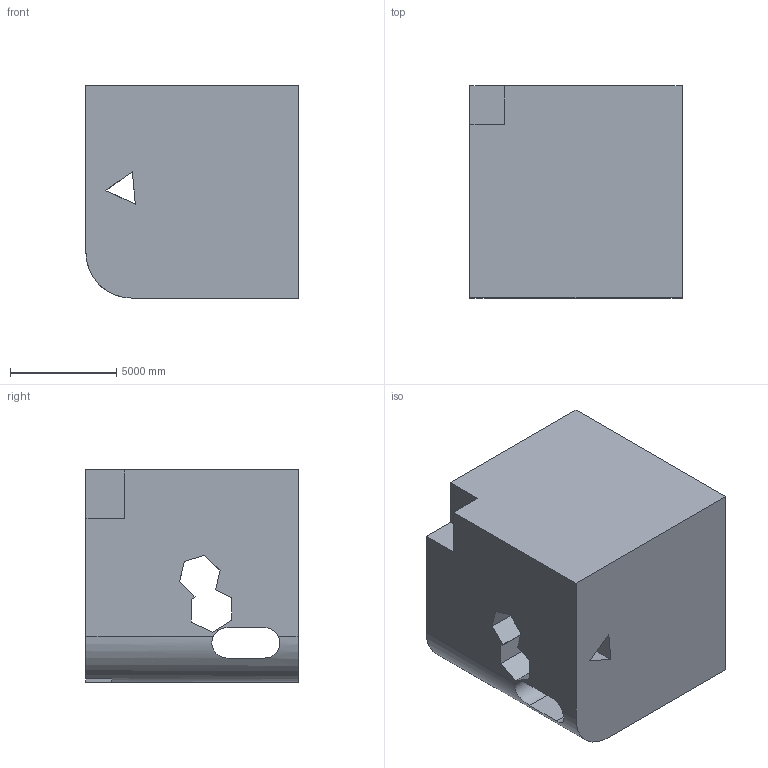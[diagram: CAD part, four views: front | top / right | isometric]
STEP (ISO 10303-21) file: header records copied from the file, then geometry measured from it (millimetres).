
FILE_DESCRIPTION (( 'STEP AP203' ), '1' );
FILE_NAME ('1719.STEP', '2022-08-19T12:03:04', ( 'user' ), ( '' ), 'SwSTEP 2.0', 'SolidWorks 2021', '' );
FILE_SCHEMA (( 'CONFIG_CONTROL_DESIGN' ));
Length unit declared in the file: centimetre
Products named in the file (1): 1719
Bounding box: 10000 x 10000 x 10000 mm (x, y, z)
Volume: 852452219342.6 mm3; surface area: 792383637.5 mm2
Topology: 1 solids, 1 shells, 40 faces, 123 edges, 82 vertices
Faces by surface type: plane 37, cylinder 3
Entity records: 1616 total; most frequent: CARTESIAN_POINT 419, ORIENTED_EDGE 246, DIRECTION 210, EDGE_CURVE 123, VECTOR 114, LINE 114, VERTEX_POINT 82, AXIS2_PLACEMENT_3D 48
